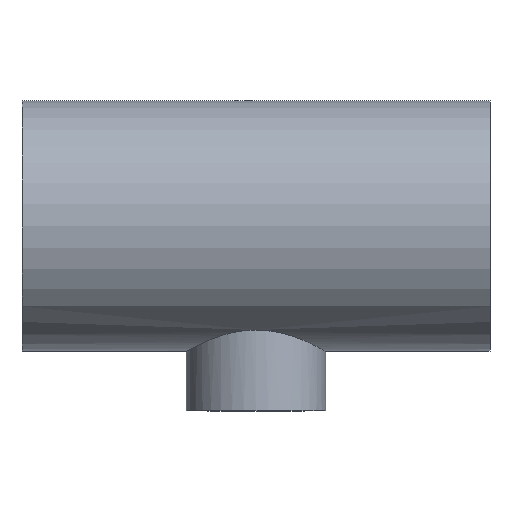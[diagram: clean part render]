
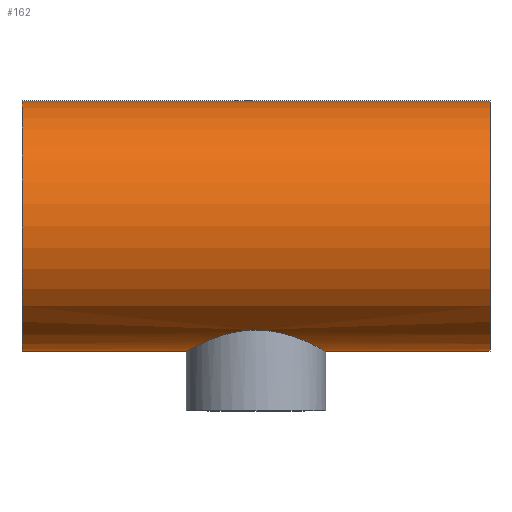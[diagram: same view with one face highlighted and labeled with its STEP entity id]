
A CAD part, top view. The second image highlights one B-rep face of the part: STEP entity #162.
In plain terms, the highlighted cylindrical face has radius 30.5 mm (diameter 61 mm), a full revolution.
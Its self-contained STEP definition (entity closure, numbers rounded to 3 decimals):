
#16=B_SPLINE_CURVE_WITH_KNOTS('',3,(#312,#313,#314,#315,#316,#317,#318,
#319,#320,#321,#322,#323,#324,#325,#326,#327,#328,#329,#330,#331,#332,#333,
#334,#335,#336,#337,#338,#339,#340,#341,#342,#343,#344,#345,#346,#347,#348,
#349,#350,#351,#352,#353,#354,#355,#356,#357,#358,#359,#360,#361,#362,#363,
#364,#365,#366,#367,#368,#369),.UNSPECIFIED.,.T.,.F.,(4,2,2,2,2,2,2,2,2,
2,2,2,2,2,2,2,2,2,2,2,2,2,2,2,2,2,2,2,4),(0.,0.329,0.659,
1.318,1.645,1.973,2.301,2.629,
2.957,3.285,3.613,3.941,4.599,
4.929,5.258,5.588,5.917,6.576,
6.904,7.232,7.559,7.887,8.215,
8.543,8.871,9.199,9.858,10.187,
10.517),.UNSPECIFIED.);
#32=FACE_BOUND('',#69,.T.);
#33=FACE_BOUND('',#70,.T.);
#46=FACE_OUTER_BOUND('',#68,.T.);
#68=EDGE_LOOP('',(#136));
#69=EDGE_LOOP('',(#137));
#70=EDGE_LOOP('',(#138));
#88=CIRCLE('',#187,30.5);
#89=CIRCLE('',#188,30.5);
#101=VERTEX_POINT('',#309);
#102=VERTEX_POINT('',#311);
#103=VERTEX_POINT('',#370);
#115=EDGE_CURVE('',#101,#101,#88,.T.);
#116=EDGE_CURVE('',#102,#102,#16,.T.);
#117=EDGE_CURVE('',#103,#103,#89,.T.);
#136=ORIENTED_EDGE('',*,*,#115,.F.);
#137=ORIENTED_EDGE('',*,*,#116,.T.);
#138=ORIENTED_EDGE('',*,*,#117,.F.);
#152=CYLINDRICAL_SURFACE('',#186,30.5);
#162=ADVANCED_FACE('',(#46,#32,#33),#152,.T.);
#186=AXIS2_PLACEMENT_3D('',#308,#230,#231);
#187=AXIS2_PLACEMENT_3D('',#310,#232,#233);
#188=AXIS2_PLACEMENT_3D('',#371,#234,#235);
#230=DIRECTION('center_axis',(1.,0.,0.));
#231=DIRECTION('ref_axis',(0.,-1.,0.));
#232=DIRECTION('center_axis',(-1.,0.,0.));
#233=DIRECTION('ref_axis',(0.,-1.,0.));
#234=DIRECTION('center_axis',(1.,0.,0.));
#235=DIRECTION('ref_axis',(0.,-1.,0.));
#308=CARTESIAN_POINT('Origin',(0.,0.,0.));
#309=CARTESIAN_POINT('',(-57.,30.5,0.));
#310=CARTESIAN_POINT('Origin',(-57.,0.,0.));
#311=CARTESIAN_POINT('',(0.,-25.323,17.));
#312=CARTESIAN_POINT('Ctrl Pts',(0.,-25.323,17.));
#313=CARTESIAN_POINT('Ctrl Pts',(1.098,-25.323,17.));
#314=CARTESIAN_POINT('Ctrl Pts',(2.222,-25.396,16.892));
#315=CARTESIAN_POINT('Ctrl Pts',(4.439,-25.686,16.449));
#316=CARTESIAN_POINT('Ctrl Pts',(5.532,-25.901,16.114));
#317=CARTESIAN_POINT('Ctrl Pts',(8.657,-26.686,14.804));
#318=CARTESIAN_POINT('Ctrl Pts',(10.535,-27.394,13.507));
#319=CARTESIAN_POINT('Ctrl Pts',(12.76,-28.348,11.281));
#320=CARTESIAN_POINT('Ctrl Pts',(13.459,-28.672,10.444));
#321=CARTESIAN_POINT('Ctrl Pts',(14.699,-29.275,8.612));
#322=CARTESIAN_POINT('Ctrl Pts',(15.24,-29.553,7.618));
#323=CARTESIAN_POINT('Ctrl Pts',(16.115,-30.014,5.53));
#324=CARTESIAN_POINT('Ctrl Pts',(16.45,-30.197,4.434));
#325=CARTESIAN_POINT('Ctrl Pts',(16.893,-30.44,2.216));
#326=CARTESIAN_POINT('Ctrl Pts',(17.,-30.5,1.093));
#327=CARTESIAN_POINT('Ctrl Pts',(17.,-30.5,-1.093));
#328=CARTESIAN_POINT('Ctrl Pts',(16.893,-30.44,-2.216));
#329=CARTESIAN_POINT('Ctrl Pts',(16.45,-30.197,-4.434));
#330=CARTESIAN_POINT('Ctrl Pts',(16.115,-30.014,-5.53));
#331=CARTESIAN_POINT('Ctrl Pts',(15.24,-29.553,-7.618));
#332=CARTESIAN_POINT('Ctrl Pts',(14.699,-29.275,-8.612));
#333=CARTESIAN_POINT('Ctrl Pts',(13.459,-28.672,-10.444));
#334=CARTESIAN_POINT('Ctrl Pts',(12.76,-28.348,-11.281));
#335=CARTESIAN_POINT('Ctrl Pts',(10.535,-27.394,-13.507));
#336=CARTESIAN_POINT('Ctrl Pts',(8.657,-26.686,-14.804));
#337=CARTESIAN_POINT('Ctrl Pts',(5.532,-25.901,-16.114));
#338=CARTESIAN_POINT('Ctrl Pts',(4.439,-25.686,-16.449));
#339=CARTESIAN_POINT('Ctrl Pts',(2.222,-25.396,-16.892));
#340=CARTESIAN_POINT('Ctrl Pts',(1.098,-25.323,-17.));
#341=CARTESIAN_POINT('Ctrl Pts',(-1.098,-25.323,-17.));
#342=CARTESIAN_POINT('Ctrl Pts',(-2.222,-25.396,-16.892));
#343=CARTESIAN_POINT('Ctrl Pts',(-4.439,-25.686,-16.449));
#344=CARTESIAN_POINT('Ctrl Pts',(-5.532,-25.901,-16.114));
#345=CARTESIAN_POINT('Ctrl Pts',(-8.657,-26.686,-14.804));
#346=CARTESIAN_POINT('Ctrl Pts',(-10.535,-27.394,-13.507));
#347=CARTESIAN_POINT('Ctrl Pts',(-12.76,-28.348,-11.281));
#348=CARTESIAN_POINT('Ctrl Pts',(-13.459,-28.672,-10.444));
#349=CARTESIAN_POINT('Ctrl Pts',(-14.699,-29.275,-8.612));
#350=CARTESIAN_POINT('Ctrl Pts',(-15.24,-29.553,-7.618));
#351=CARTESIAN_POINT('Ctrl Pts',(-16.115,-30.014,-5.53));
#352=CARTESIAN_POINT('Ctrl Pts',(-16.45,-30.197,-4.434));
#353=CARTESIAN_POINT('Ctrl Pts',(-16.893,-30.44,-2.216));
#354=CARTESIAN_POINT('Ctrl Pts',(-17.,-30.5,-1.093));
#355=CARTESIAN_POINT('Ctrl Pts',(-17.,-30.5,1.093));
#356=CARTESIAN_POINT('Ctrl Pts',(-16.893,-30.44,2.216));
#357=CARTESIAN_POINT('Ctrl Pts',(-16.45,-30.197,4.434));
#358=CARTESIAN_POINT('Ctrl Pts',(-16.115,-30.014,5.53));
#359=CARTESIAN_POINT('Ctrl Pts',(-15.24,-29.553,7.618));
#360=CARTESIAN_POINT('Ctrl Pts',(-14.699,-29.275,8.612));
#361=CARTESIAN_POINT('Ctrl Pts',(-13.459,-28.672,10.444));
#362=CARTESIAN_POINT('Ctrl Pts',(-12.76,-28.348,11.281));
#363=CARTESIAN_POINT('Ctrl Pts',(-10.535,-27.394,13.507));
#364=CARTESIAN_POINT('Ctrl Pts',(-8.657,-26.686,14.804));
#365=CARTESIAN_POINT('Ctrl Pts',(-5.532,-25.901,16.114));
#366=CARTESIAN_POINT('Ctrl Pts',(-4.439,-25.686,16.449));
#367=CARTESIAN_POINT('Ctrl Pts',(-2.222,-25.396,16.892));
#368=CARTESIAN_POINT('Ctrl Pts',(-1.098,-25.323,17.));
#369=CARTESIAN_POINT('Ctrl Pts',(0.,-25.323,
17.));
#370=CARTESIAN_POINT('',(57.,30.5,0.));
#371=CARTESIAN_POINT('Origin',(57.,0.,0.));
